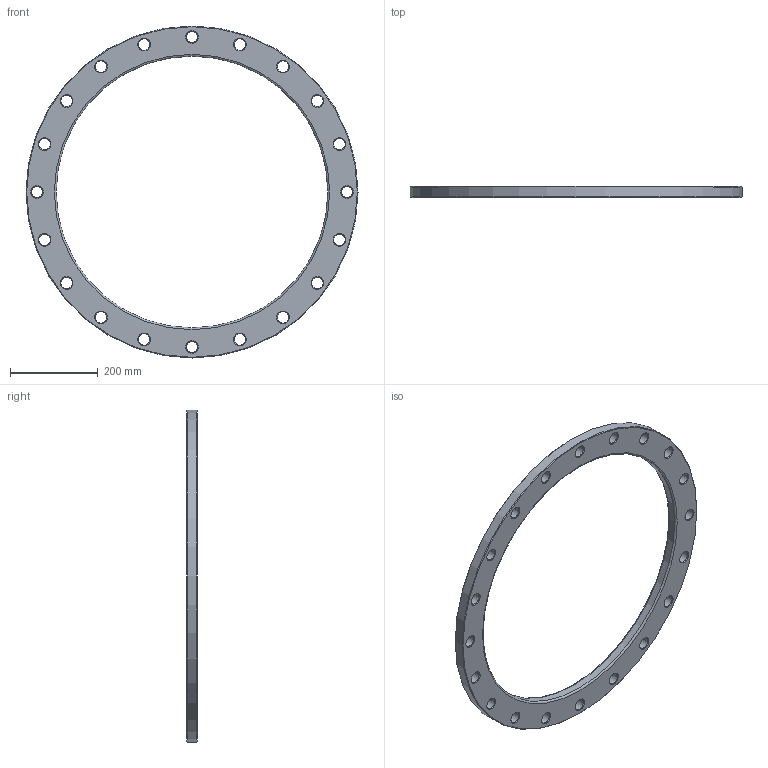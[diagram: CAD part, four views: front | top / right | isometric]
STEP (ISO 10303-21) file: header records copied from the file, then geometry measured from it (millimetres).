
FILE_DESCRIPTION(/* description */ ('Unknown'),/* implementation_level */ '2;1');
FILE_NAME(/* name */ 'FZ560A',/* time_stamp */ '2021-03-15T09:10:06+01:00',/* author */ ('Unknown'),/* organization */ ('Unknown'),/* preprocessor_version */ 'ST-DEVELOPER v16.7',/* originating_system */ 'Solid Edge',/* authorisation */ 'Unknown');
FILE_SCHEMA (('AUTOMOTIVE_DESIGN {1 0 10303 214 3 1 1}'));
Length unit declared in the file: millimetre
Products named in the file (1): FZ560A
Bounding box: 755 x 25 x 755 mm (x, y, z)
Volume: 3405371.8 mm3; surface area: 409327 mm2
Topology: 1 solids, 1 shells, 68 faces, 214 edges, 148 vertices
Faces by surface type: cone 42, cylinder 22, plane 2, torus 2
Full cylindrical faces by diameter (mm): 26 x20, 618 x1, 755 x1
Entity records: 1678 total; most frequent: DIRECTION 314, CARTESIAN_POINT 245, ORIENTED_EDGE 176, EDGE_LOOP 176, FACE_BOUND 176, AXIS2_PLACEMENT_3D 157, EDGE_CURVE 88, VERTEX_POINT 88
